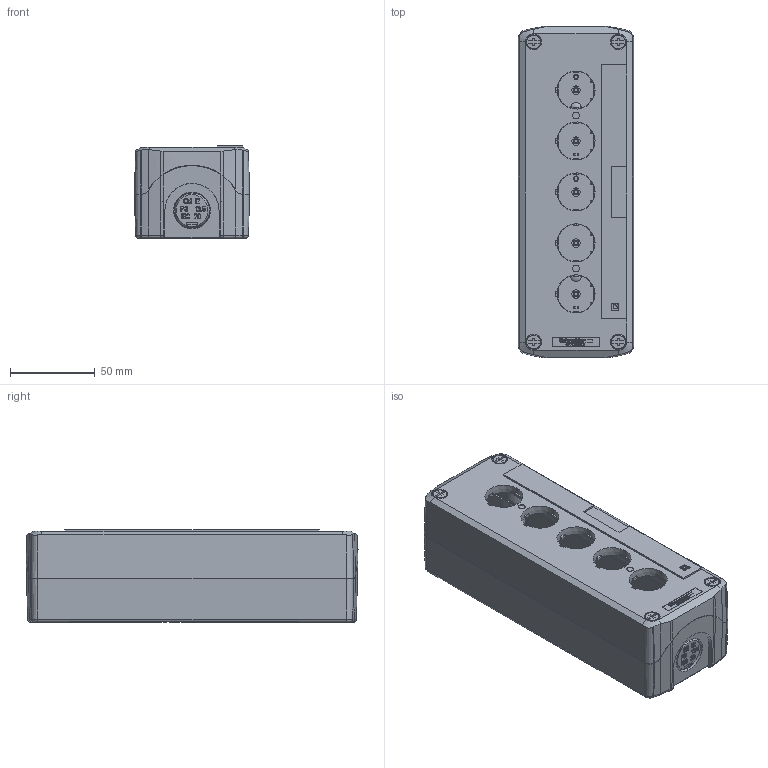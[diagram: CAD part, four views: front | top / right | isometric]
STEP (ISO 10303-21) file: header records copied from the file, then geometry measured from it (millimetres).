
FILE_DESCRIPTION((''),'2;1');
FILE_NAME('XALD05_SW0001','2016-02-01T',('EBBX743'),('Schneider-Electric'),'PRO/ENGINEER BY PARAMETRIC TECHNOLOGY CORPORATION, 2014310','PRO/ENGINEER BY PARAMETRIC TECHNOLOGY CORPORATION, 2014310','');
FILE_SCHEMA(('CONFIG_CONTROL_DESIGN'));
Products named in the file (1): XALD05_SW0001
Bounding box: 68 x 196.03 x 54.85 mm (x, y, z)
Surface area: 117395.6 mm2 (no closed solid volume)
Topology: 0 solids, 179 shells, 1435 faces, 11339 edges, 9939 vertices
Faces by surface type: plane 1007, cone 242, bspline 69, extrusion 57, cylinder 37, torus 15, sphere 8
Entity records: 111024 total; most frequent: CARTESIAN_POINT 31921, ORIENTED_EDGE 14452, DIRECTION 13984, EDGE_CURVE 11331, VERTEX_POINT 9939, VECTOR 9248, LINE 9191, AXIS2_PLACEMENT_3D 2368
